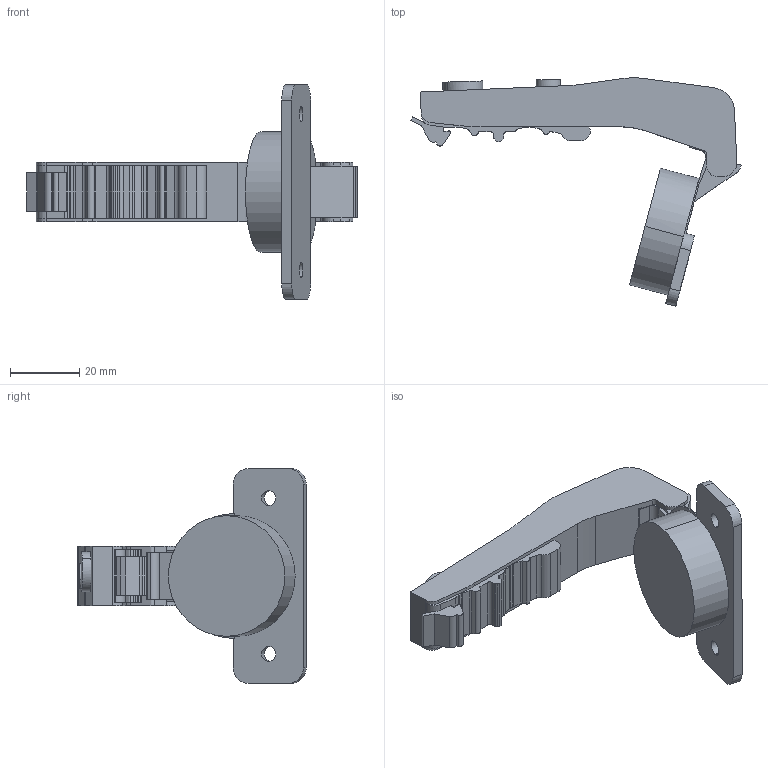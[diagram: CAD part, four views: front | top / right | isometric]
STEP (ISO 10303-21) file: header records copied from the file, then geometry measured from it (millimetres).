
FILE_DESCRIPTION (( 'STEP AP214' ), '1' );
FILE_NAME ('C82J675FA-Open.STEP', '2025-07-21T07:24:38', ( '微软用户' ), ( '微软中国' ), 'SwSTEP 2.0', 'SolidWorks 2021', '' );
FILE_SCHEMA (( 'AUTOMOTIVE_DESIGN' ));
Length unit declared in the file: millimetre
Products named in the file (1): C82J675FA-Open
Bounding box: 95.28 x 65.86 x 61.96 mm (x, y, z)
Volume: 39000.5 mm3; surface area: 12455.2 mm2
Topology: 1 solids, 1 shells, 155 faces, 445 edges, 294 vertices
Faces by surface type: plane 79, cylinder 76
Entity records: 5158 total; most frequent: CARTESIAN_POINT 916, DIRECTION 909, ORIENTED_EDGE 890, EDGE_CURVE 445, AXIS2_PLACEMENT_3D 315, VERTEX_POINT 294, VECTOR 279, LINE 279
